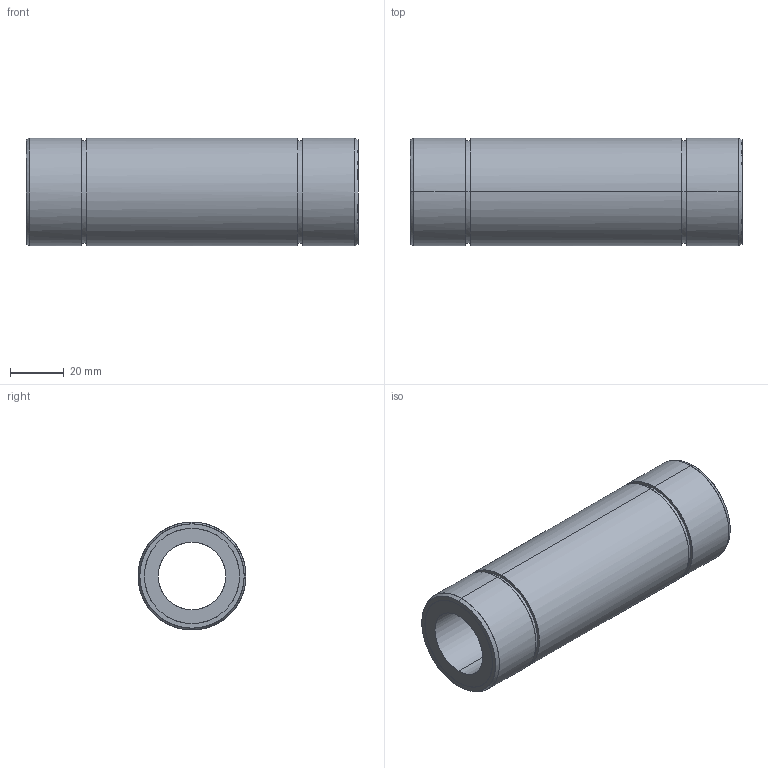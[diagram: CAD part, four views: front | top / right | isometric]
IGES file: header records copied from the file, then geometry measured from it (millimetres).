
Global section: file name: No Iges File Name specified; native system: AutoDesk Inventor R10; preprocessor: AutoDesk Inventor Iges Exporter R10; author: No Author specified; organization: No Organization specified; date: 20101216.152934; units: millimetre
Bounding box: 123 x 40 x 40 mm (x, y, z)
Surface area: 26990.6 mm2 (no closed solid volume)
Topology: 0 solids, 0 shells, 28 faces, 184 edges, 184 vertices
Faces by surface type: bspline 28
